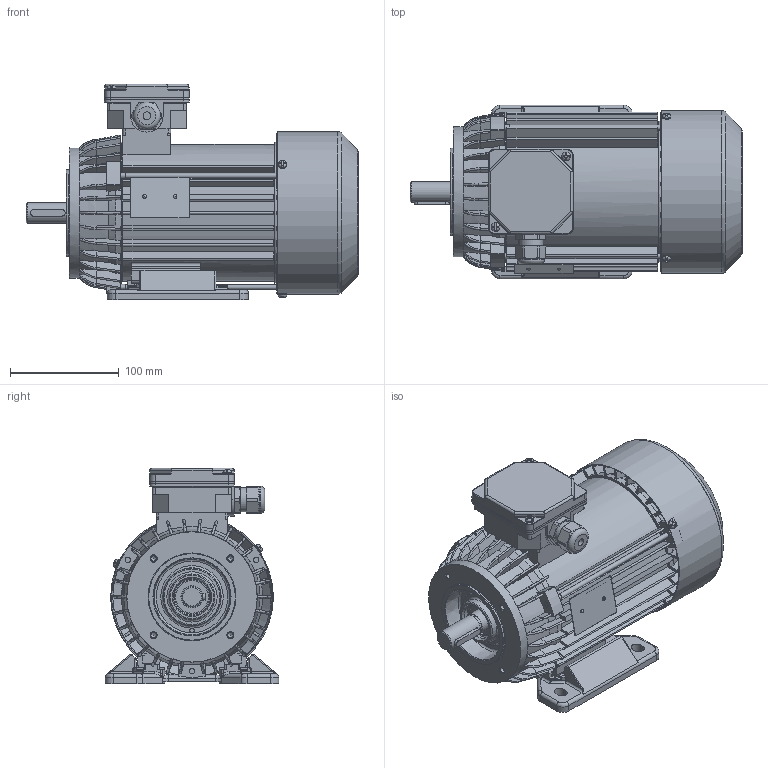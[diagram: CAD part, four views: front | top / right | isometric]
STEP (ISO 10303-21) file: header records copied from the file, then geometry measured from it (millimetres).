
FILE_DESCRIPTION(/* description */ ('Unknown'),/* implementation_level */ '2;1');
FILE_NAME(/* name */ '2SIEL80-6B2',/* time_stamp */ '2021-04-12T15:01:30+02:00',/* author */ ('Unknown'),/* organization */ ('Unknown'),/* preprocessor_version */ 'ST-DEVELOPER v16.7',/* originating_system */ 'Solid Edge',/* authorisation */ 'Unknown');
FILE_SCHEMA (('AUTOMOTIVE_DESIGN {1 0 10303 214 3 1 1}'));
Products named in the file (1): 2SIEL80-6B2
Bounding box: 305.79 x 160 x 198.5 mm (x, y, z)
Volume: 1065414.9 mm3; surface area: 584578 mm2
Topology: 4 solids, 4 shells, 2734 faces, 7858 edges, 5060 vertices
Faces by surface type: plane 1309, cylinder 864, bspline 292, torus 137, cone 114, sphere 18
Full cylindrical faces by diameter (mm): 2 x2, 2.4 x2, 3 x1, 3.7 x8, 4 x4, 4.5 x1, 4.6 x3, 4.8 x2, 5 x12, 5.5 x3, 6.5 x4, 7 x1, 8 x9, 18.598 x1, 18.998 x1, 19.298 x1, 19.498 x1, 19.898 x1, 19.948 x1, 19.998 x2, 20.4 x2, 22.3 x1, 25 x1, 25.497 x1, 25.647 x1, 25.997 x3, 26.047 x1, 28.799 x4, 30 x1, 34 x1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
Entity records: 112659 total; most frequent: CARTESIAN_POINT 26681, ORIENTED_EDGE 14826, DIRECTION 13448, EDGE_CURVE 7413, VERTEX_POINT 4901, AXIS2_PLACEMENT_3D 4864, LINE 3720, VECTOR 3720
